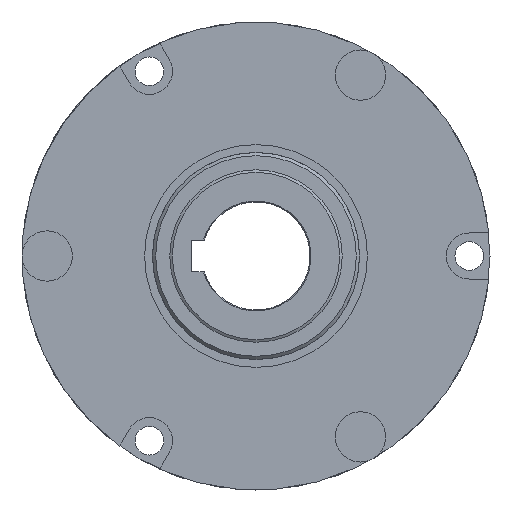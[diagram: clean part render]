
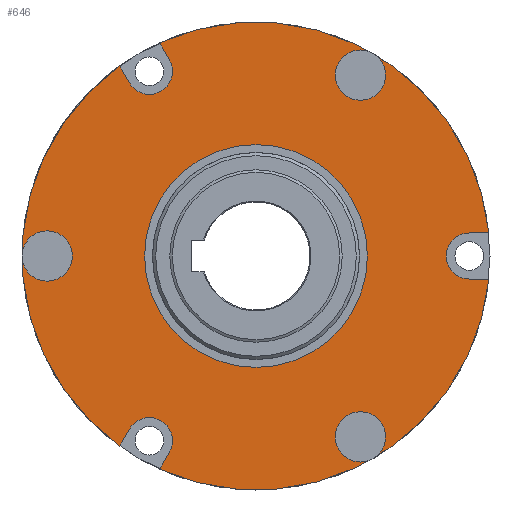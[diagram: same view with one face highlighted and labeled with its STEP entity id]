
A CAD part, left-side view. The second image highlights one B-rep face of the part: STEP entity #646.
In plain terms, the highlighted planar face has unit normal (-1, 0, 0).
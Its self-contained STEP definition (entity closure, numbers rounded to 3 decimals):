
#5 = ORIENTED_EDGE ( 'NONE', *, *, #2565, .T. ) ;
#42 = EDGE_CURVE ( 'NONE', #550, #293, #2550, .T. ) ;
#55 = ORIENTED_EDGE ( 'NONE', *, *, #611, .T. ) ;
#73 = VECTOR ( 'NONE', #2714, 1000. ) ;
#103 = CIRCLE ( 'NONE', #675, 73.5 ) ;
#115 = FACE_BOUND ( 'NONE', #2214, .T. ) ;
#122 = CARTESIAN_POINT ( 'NONE',  ( -22.7, 6.279, 3.625 ) ) ;
#126 = CARTESIAN_POINT ( 'NONE',  ( -22.7, -6.279, 3.625 ) ) ;
#130 = ORIENTED_EDGE ( 'NONE', *, *, #716, .F. ) ;
#187 = CARTESIAN_POINT ( 'NONE',  ( -22.7, -32.8, -56.811 ) ) ;
#211 = EDGE_CURVE ( 'NONE', #1005, #413, #2193, .T. ) ;
#213 = DIRECTION ( 'NONE',  ( -1., 0., 0. ) ) ;
#234 = EDGE_CURVE ( 'NONE', #1170, #1234, #719, .T. ) ;
#244 = EDGE_LOOP ( 'NONE', ( #2151 ) ) ;
#283 = VECTOR ( 'NONE', #410, 1000. ) ;
#293 = VERTEX_POINT ( 'NONE', #1254 ) ;
#353 = VERTEX_POINT ( 'NONE', #1233 ) ;
#374 = EDGE_CURVE ( 'NONE', #1803, #1462, #2702, .T. ) ;
#410 = DIRECTION ( 'NONE',  ( 0., 0.5, 0.866 ) ) ;
#413 = VERTEX_POINT ( 'NONE', #1672 ) ;
#415 = CARTESIAN_POINT ( 'NONE',  ( -22.7, 0., 0. ) ) ;
#452 = CARTESIAN_POINT ( 'NONE',  ( -22.7, 30.292, 66.967 ) ) ;
#483 = DIRECTION ( 'NONE',  ( -1., 0., 0. ) ) ;
#521 = CARTESIAN_POINT ( 'NONE',  ( -22.7, -73.142, -7.25 ) ) ;
#529 = VECTOR ( 'NONE', #2684, 1000. ) ;
#550 = VERTEX_POINT ( 'NONE', #1666 ) ;
#579 = CIRCLE ( 'NONE', #981, 7.4 ) ;
#605 = VECTOR ( 'NONE', #1423, 1000. ) ;
#611 = EDGE_CURVE ( 'NONE', #1234, #2029, #103, .T. ) ;
#622 = AXIS2_PLACEMENT_3D ( 'NONE', #2647, #2189, #884 ) ;
#639 = LINE ( 'NONE', #725, #1731 ) ;
#646 = ADVANCED_FACE ( 'NONE', ( #115, #1105, #1920, #1785, #901 ), #1139, .F. ) ;
#656 = VERTEX_POINT ( 'NONE', #1219 ) ;
#675 = AXIS2_PLACEMENT_3D ( 'NONE', #415, #2150, #842 ) ;
#692 = CIRCLE ( 'NONE', #865, 7.25 ) ;
#697 = VERTEX_POINT ( 'NONE', #837 ) ;
#702 = CARTESIAN_POINT ( 'NONE',  ( -22.7, 30.292, -66.967 ) ) ;
#716 = EDGE_CURVE ( 'NONE', #1170, #1316, #692, .T. ) ;
#719 = LINE ( 'NONE', #2177, #1029 ) ;
#725 = CARTESIAN_POINT ( 'NONE',  ( -22.7, 0., 7.25 ) ) ;
#727 = DIRECTION ( 'NONE',  ( 0., 0., 1. ) ) ;
#837 = CARTESIAN_POINT ( 'NONE',  ( -22.7, -32.8, -64.211 ) ) ;
#842 = DIRECTION ( 'NONE',  ( 0., 0., 1. ) ) ;
#865 = AXIS2_PLACEMENT_3D ( 'NONE', #946, #2665, #1149 ) ;
#868 = DIRECTION ( 'NONE',  ( 0., 0., 1. ) ) ;
#873 = DIRECTION ( 'NONE',  ( 0., 0., 1. ) ) ;
#884 = DIRECTION ( 'NONE',  ( 0., 0., -1. ) ) ;
#895 = ORIENTED_EDGE ( 'NONE', *, *, #1354, .T. ) ;
#901 = FACE_OUTER_BOUND ( 'NONE', #1360, .T. ) ;
#904 = EDGE_LOOP ( 'NONE', ( #965 ) ) ;
#920 = DIRECTION ( 'NONE',  ( 0., -1., 0. ) ) ;
#928 = CARTESIAN_POINT ( 'NONE',  ( -22.7, 0., 0. ) ) ;
#946 = CARTESIAN_POINT ( 'NONE',  ( -22.7, 33.5, -58.024 ) ) ;
#947 = DIRECTION ( 'NONE',  ( 0., 0., 1. ) ) ;
#954 = EDGE_CURVE ( 'NONE', #1612, #1612, #2136, .T. ) ;
#965 = ORIENTED_EDGE ( 'NONE', *, *, #2499, .F. ) ;
#981 = AXIS2_PLACEMENT_3D ( 'NONE', #187, #1280, #2774 ) ;
#1000 = CARTESIAN_POINT ( 'NONE',  ( -22.7, 0., 35. ) ) ;
#1005 = VERTEX_POINT ( 'NONE', #1077 ) ;
#1029 = VECTOR ( 'NONE', #1529, 1000. ) ;
#1065 = AXIS2_PLACEMENT_3D ( 'NONE', #1066, #2569, #868 ) ;
#1066 = CARTESIAN_POINT ( 'NONE',  ( -22.7, 0., 0. ) ) ;
#1069 = CIRCLE ( 'NONE', #2372, 73.5 ) ;
#1077 = CARTESIAN_POINT ( 'NONE',  ( -22.7, -67., 7.25 ) ) ;
#1104 = ORIENTED_EDGE ( 'NONE', *, *, #1857, .F. ) ;
#1105 = FACE_BOUND ( 'NONE', #904, .T. ) ;
#1139 = PLANE ( 'NONE',  #622 ) ;
#1141 = ORIENTED_EDGE ( 'NONE', *, *, #2105, .T. ) ;
#1149 = DIRECTION ( 'NONE',  ( 0., 0., 1. ) ) ;
#1170 = VERTEX_POINT ( 'NONE', #1761 ) ;
#1219 = CARTESIAN_POINT ( 'NONE',  ( -22.7, -73.142, 7.25 ) ) ;
#1233 = CARTESIAN_POINT ( 'NONE',  ( -22.7, -32.8, 49.411 ) ) ;
#1234 = VERTEX_POINT ( 'NONE', #702 ) ;
#1254 = CARTESIAN_POINT ( 'NONE',  ( -22.7, 42.849, -59.717 ) ) ;
#1275 = ORIENTED_EDGE ( 'NONE', *, *, #42, .T. ) ;
#1280 = DIRECTION ( 'NONE',  ( -1., 0., 0. ) ) ;
#1296 = AXIS2_PLACEMENT_3D ( 'NONE', #2641, #483, #947 ) ;
#1316 = VERTEX_POINT ( 'NONE', #2472 ) ;
#1324 = VERTEX_POINT ( 'NONE', #1398 ) ;
#1326 = AXIS2_PLACEMENT_3D ( 'NONE', #2646, #2221, #1364 ) ;
#1346 = CARTESIAN_POINT ( 'NONE',  ( -22.7, 65.6, 0. ) ) ;
#1354 = EDGE_CURVE ( 'NONE', #293, #1316, #1565, .T. ) ;
#1360 = EDGE_LOOP ( 'NONE', ( #2030, #1141, #1999, #1104, #5, #1275, #895, #130, #1457, #55, #1560, #1521 ) ) ;
#1362 = DIRECTION ( 'NONE',  ( -1., 0., 0. ) ) ;
#1364 = DIRECTION ( 'NONE',  ( 0., 0., 1. ) ) ;
#1398 = CARTESIAN_POINT ( 'NONE',  ( -22.7, 39.779, 54.399 ) ) ;
#1417 = ORIENTED_EDGE ( 'NONE', *, *, #1426, .F. ) ;
#1423 = DIRECTION ( 'NONE',  ( 0., 1., 0. ) ) ;
#1426 = EDGE_CURVE ( 'NONE', #353, #353, #2631, .T. ) ;
#1457 = ORIENTED_EDGE ( 'NONE', *, *, #234, .T. ) ;
#1462 = VERTEX_POINT ( 'NONE', #2503 ) ;
#1521 = ORIENTED_EDGE ( 'NONE', *, *, #211, .F. ) ;
#1524 = EDGE_CURVE ( 'NONE', #2029, #413, #2241, .T. ) ;
#1529 = DIRECTION ( 'NONE',  ( 0., 0.5, -0.866 ) ) ;
#1530 = CIRCLE ( 'NONE', #1296, 7.25 ) ;
#1560 = ORIENTED_EDGE ( 'NONE', *, *, #1524, .T. ) ;
#1565 = LINE ( 'NONE', #122, #529 ) ;
#1612 = VERTEX_POINT ( 'NONE', #1000 ) ;
#1665 = DIRECTION ( 'NONE',  ( -1., 0., 0. ) ) ;
#1666 = CARTESIAN_POINT ( 'NONE',  ( -22.7, 42.849, 59.717 ) ) ;
#1668 = AXIS2_PLACEMENT_3D ( 'NONE', #2382, #213, #873 ) ;
#1672 = CARTESIAN_POINT ( 'NONE',  ( -22.7, -67., -7.25 ) ) ;
#1674 = DIRECTION ( 'NONE',  ( 0., 0., -1. ) ) ;
#1727 = ORIENTED_EDGE ( 'NONE', *, *, #1906, .F. ) ;
#1731 = VECTOR ( 'NONE', #920, 1000. ) ;
#1761 = CARTESIAN_POINT ( 'NONE',  ( -22.7, 27.221, -61.649 ) ) ;
#1775 = DIRECTION ( 'NONE',  ( -1., 0., 0. ) ) ;
#1785 = FACE_BOUND ( 'NONE', #244, .T. ) ;
#1798 = EDGE_LOOP ( 'NONE', ( #1727 ) ) ;
#1803 = VERTEX_POINT ( 'NONE', #452 ) ;
#1833 = AXIS2_PLACEMENT_3D ( 'NONE', #1346, #1775, #2443 ) ;
#1857 = EDGE_CURVE ( 'NONE', #1324, #1462, #1530, .T. ) ;
#1878 = EDGE_CURVE ( 'NONE', #1005, #656, #639, .T. ) ;
#1883 = CARTESIAN_POINT ( 'NONE',  ( -22.7, 65.6, -7.4 ) ) ;
#1895 = CIRCLE ( 'NONE', #1833, 7.4 ) ;
#1906 = EDGE_CURVE ( 'NONE', #2328, #2328, #1895, .T. ) ;
#1920 = FACE_BOUND ( 'NONE', #1798, .T. ) ;
#1999 = ORIENTED_EDGE ( 'NONE', *, *, #374, .T. ) ;
#2020 = LINE ( 'NONE', #2388, #283 ) ;
#2029 = VERTEX_POINT ( 'NONE', #521 ) ;
#2030 = ORIENTED_EDGE ( 'NONE', *, *, #1878, .T. ) ;
#2105 = EDGE_CURVE ( 'NONE', #656, #1803, #1069, .T. ) ;
#2136 = CIRCLE ( 'NONE', #1065, 35. ) ;
#2150 = DIRECTION ( 'NONE',  ( -1., 0., 0. ) ) ;
#2151 = ORIENTED_EDGE ( 'NONE', *, *, #954, .F. ) ;
#2177 = CARTESIAN_POINT ( 'NONE',  ( -22.7, -6.279, -3.625 ) ) ;
#2189 = DIRECTION ( 'NONE',  ( 1., 0., 0. ) ) ;
#2193 = CIRCLE ( 'NONE', #1668, 7.25 ) ;
#2214 = EDGE_LOOP ( 'NONE', ( #1417 ) ) ;
#2221 = DIRECTION ( 'NONE',  ( -1., 0., 0. ) ) ;
#2241 = LINE ( 'NONE', #2747, #605 ) ;
#2328 = VERTEX_POINT ( 'NONE', #1883 ) ;
#2372 = AXIS2_PLACEMENT_3D ( 'NONE', #928, #1362, #727 ) ;
#2382 = CARTESIAN_POINT ( 'NONE',  ( -22.7, -67., 0. ) ) ;
#2388 = CARTESIAN_POINT ( 'NONE',  ( -22.7, 6.279, -3.625 ) ) ;
#2436 = AXIS2_PLACEMENT_3D ( 'NONE', #2494, #1665, #1674 ) ;
#2443 = DIRECTION ( 'NONE',  ( 0., 0., -1. ) ) ;
#2472 = CARTESIAN_POINT ( 'NONE',  ( -22.7, 39.779, -54.399 ) ) ;
#2494 = CARTESIAN_POINT ( 'NONE',  ( -22.7, -32.8, 56.811 ) ) ;
#2499 = EDGE_CURVE ( 'NONE', #697, #697, #579, .T. ) ;
#2503 = CARTESIAN_POINT ( 'NONE',  ( -22.7, 27.221, 61.649 ) ) ;
#2550 = CIRCLE ( 'NONE', #1326, 73.5 ) ;
#2565 = EDGE_CURVE ( 'NONE', #1324, #550, #2020, .T. ) ;
#2569 = DIRECTION ( 'NONE',  ( -1., 0., 0. ) ) ;
#2631 = CIRCLE ( 'NONE', #2436, 7.4 ) ;
#2641 = CARTESIAN_POINT ( 'NONE',  ( -22.7, 33.5, 58.024 ) ) ;
#2646 = CARTESIAN_POINT ( 'NONE',  ( -22.7, 0., 0. ) ) ;
#2647 = CARTESIAN_POINT ( 'NONE',  ( -22.7, 0., 0. ) ) ;
#2665 = DIRECTION ( 'NONE',  ( -1., 0., 0. ) ) ;
#2684 = DIRECTION ( 'NONE',  ( 0., -0.5, 0.866 ) ) ;
#2702 = LINE ( 'NONE', #126, #73 ) ;
#2714 = DIRECTION ( 'NONE',  ( 0., -0.5, -0.866 ) ) ;
#2747 = CARTESIAN_POINT ( 'NONE',  ( -22.7, 0., -7.25 ) ) ;
#2774 = DIRECTION ( 'NONE',  ( 0., 0., -1. ) ) ;
